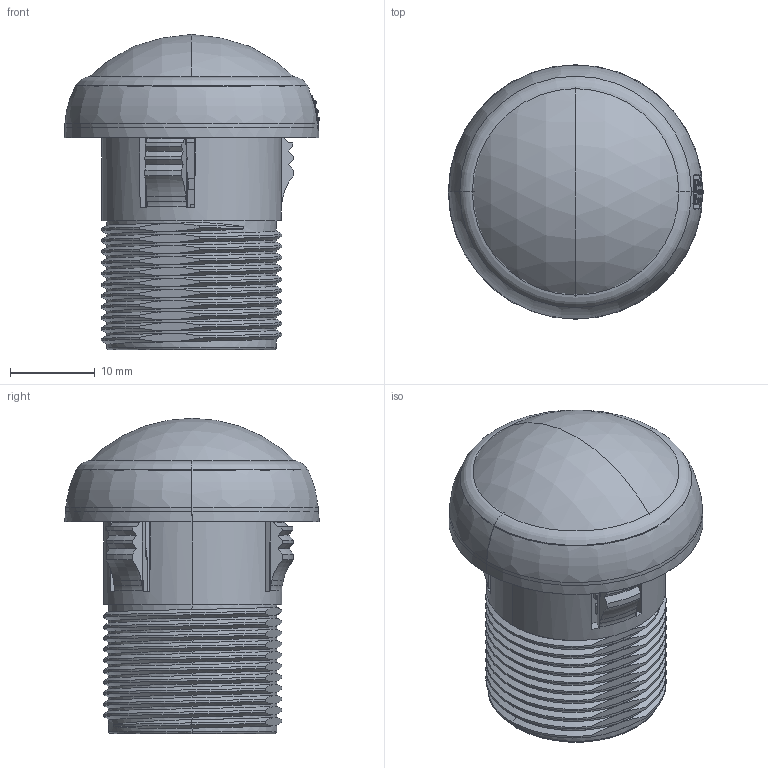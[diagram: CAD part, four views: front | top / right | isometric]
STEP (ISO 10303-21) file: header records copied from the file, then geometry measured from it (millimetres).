
FILE_DESCRIPTION (( 'STEP AP214' ), '1' );
FILE_NAME ('ORB9547-M01 Mushroom.STEP', '2022-11-11T17:18:02', ( '' ), ( '' ), 'SwSTEP 2.0', 'SolidWorks 2020', '' );
FILE_SCHEMA (( 'AUTOMOTIVE_DESIGN' ));
Length unit declared in the file: millimetre
Products named in the file (8): ORB9547-M01 Mushroom; OXB9604-M05; OXB9569-M01; BAB9543-M01; BAB9544-M01; OXB9963-M01; OXB9286-M051; BAB9545-M01_no text
Assembly tree (7 placements, depth 2):
  ORB9547-M01 Mushroom
    BAB9544-M01
    OXB9569-M01
    BAB9543-M01
    OXB9604-M05
    OXB9286-M051
    BAB9545-M01_no text
    OXB9963-M01
Bounding box: 30.13 x 30.03 x 37.21 mm (x, y, z)
Volume: 7474.4 mm3; surface area: 15637.8 mm2
Topology: 112 solids, 112 shells, 3723 faces, 10079 edges, 6616 vertices
Faces by surface type: plane 1956, cylinder 1053, bspline 304, cone 276, torus 119, sphere 15
Entity records: 185092 total; most frequent: CARTESIAN_POINT 62948, ORIENTED_EDGE 20158, DIRECTION 17653, EDGE_CURVE 10079, VERTEX_POINT 6616, AXIS2_PLACEMENT_3D 6003, VECTOR 5647, LINE 5647
